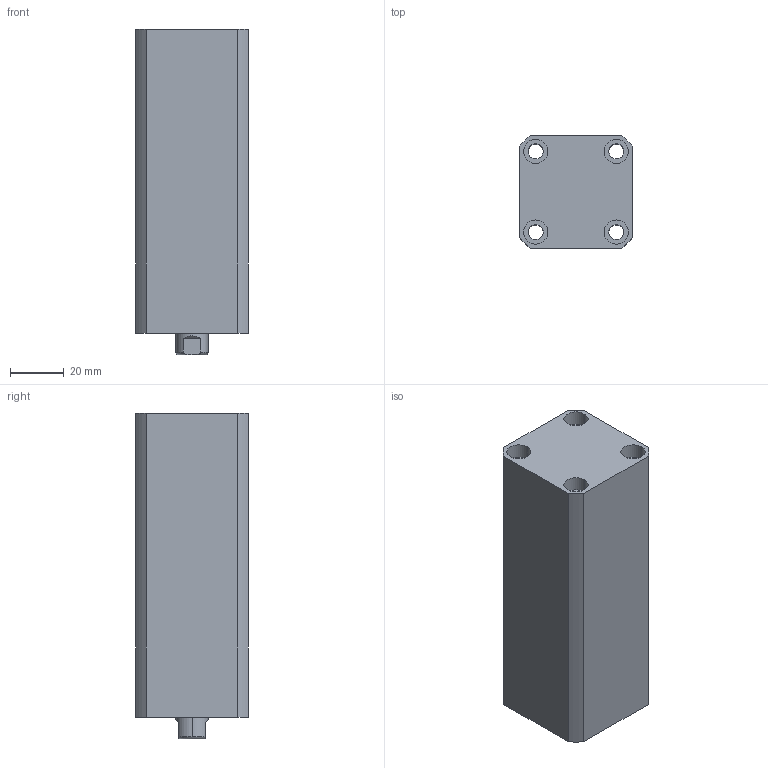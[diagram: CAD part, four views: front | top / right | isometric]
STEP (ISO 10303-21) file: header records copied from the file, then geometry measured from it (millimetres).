
FILE_DESCRIPTION (( 'STEP AP214' ), '1' );
FILE_NAME ('chtb-sd20x70n_asm.STEP', '2018-04-26T12:18:39', ( 'Windows' ), ( 'Microsoft' ), 'SwSTEP 2.0', 'SolidWorks 2015', '' );
FILE_SCHEMA (( 'AUTOMOTIVE_DESIGN' ));
Length unit declared in the file: millimetre
Products named in the file (4): CHTB-SD20X70NHSG; CHTB-SD20X70NBT; chtb-sd20x70n_asm; QG
Assembly tree (3 placements, depth 2):
  chtb-sd20x70n_asm
    CHTB-SD20X70NBT
    CHTB-SD20X70NHSG
    QG
Bounding box: 42 x 42 x 121 mm (x, y, z)
Volume: 166280.8 mm3; surface area: 47725.1 mm2
Topology: 3 solids, 3 shells, 192 faces, 499 edges, 330 vertices
Faces by surface type: cylinder 102, plane 36, torus 25, bspline 19, cone 10
Entity records: 10524 total; most frequent: CARTESIAN_POINT 5851, ORIENTED_EDGE 986, DIRECTION 903, EDGE_CURVE 493, AXIS2_PLACEMENT_3D 385, VERTEX_POINT 330, EDGE_LOOP 229, CIRCLE 206
